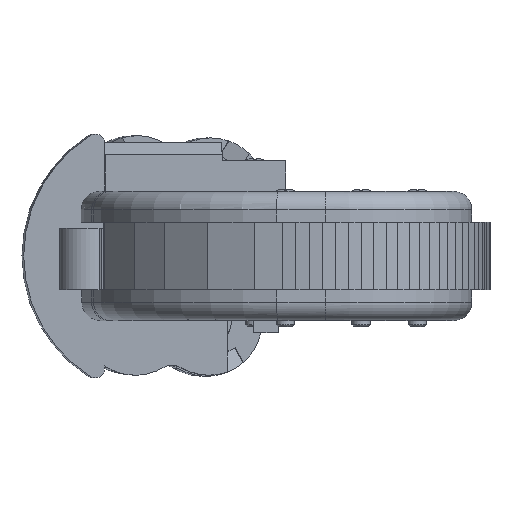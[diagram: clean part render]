
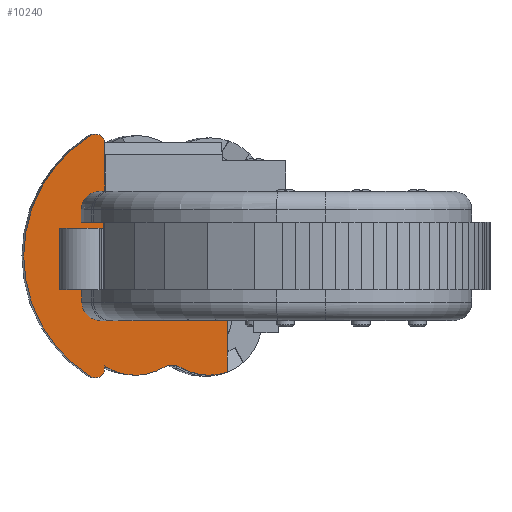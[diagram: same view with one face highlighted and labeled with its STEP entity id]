
A CAD part, left-side view. The second image highlights one B-rep face of the part: STEP entity #10240.
In plain terms, the highlighted planar face has unit normal (-1, -0.014, 0) as drawn and (0, 0, -1) by its records, which use the part's own axes.
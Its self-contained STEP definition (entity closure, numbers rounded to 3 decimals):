
#9514=CARTESIAN_POINT('',(-5.5,-31.024,0.0));
#9515=VERTEX_POINT('',#9514);
#9522=CARTESIAN_POINT('',(5.5,-31.024,0.0));
#9523=VERTEX_POINT('',#9522);
#9524=CARTESIAN_POINT('',(0.,-23.9,0.0));
#9525=DIRECTION('',(0.0,0.0,1.0));
#9526=DIRECTION('',(-0.611,-0.792,0.0));
#9527=AXIS2_PLACEMENT_3D('',#9524,#9525,#9526);
#9528=CIRCLE('',#9527,9.);
#9529=EDGE_CURVE('',#9515,#9523,#9528,.T.);
#9554=CARTESIAN_POINT('',(1.5,4.426,0.0));
#9555=VERTEX_POINT('',#9554);
#9556=CARTESIAN_POINT('',(-1.5,4.426,0.0));
#9557=VERTEX_POINT('',#9556);
#9558=CARTESIAN_POINT('',(1.5,4.426,0.0));
#9559=DIRECTION('',(-1.0,0.0,0.0));
#9560=VECTOR('',#9559,3.0);
#9561=LINE('',#9558,#9560);
#9562=EDGE_CURVE('',#9555,#9557,#9561,.T.);
#9594=CARTESIAN_POINT('',(1.5,-4.532,0.0));
#9595=VERTEX_POINT('',#9594);
#9596=CARTESIAN_POINT('',(1.5,-4.532,0.0));
#9597=DIRECTION('',(0.0,1.0,0.0));
#9598=VECTOR('',#9597,8.958);
#9599=LINE('',#9596,#9598);
#9600=EDGE_CURVE('',#9595,#9555,#9599,.T.);
#9625=CARTESIAN_POINT('',(-1.5,-4.532,0.0));
#9626=VERTEX_POINT('',#9625);
#9627=CARTESIAN_POINT('',(-1.5,-4.532,0.0));
#9628=DIRECTION('',(1.0,0.0,0.0));
#9629=VECTOR('',#9628,3.);
#9630=LINE('',#9627,#9629);
#9631=EDGE_CURVE('',#9626,#9595,#9630,.T.);
#9656=CARTESIAN_POINT('',(-1.5,4.426,0.0));
#9657=DIRECTION('',(0.0,-1.0,0.0));
#9658=VECTOR('',#9657,8.958);
#9659=LINE('',#9656,#9658);
#9660=EDGE_CURVE('',#9557,#9626,#9659,.T.);
#9689=CARTESIAN_POINT('',(2.0,-11.997,0.0));
#9690=VERTEX_POINT('',#9689);
#9691=CARTESIAN_POINT('',(0.0,-11.997,0.0));
#9692=DIRECTION('',(0.0,0.0,1.0));
#9693=DIRECTION('',(-1.0,0.0,0.0));
#9694=AXIS2_PLACEMENT_3D('',#9691,#9692,#9693);
#9695=CIRCLE('',#9694,2.0);
#9696=EDGE_CURVE('',#9690,#9690,#9695,.T.);
#9706=CARTESIAN_POINT('',(5.5,-20.9,0.0));
#9707=VERTEX_POINT('',#9706);
#9708=CARTESIAN_POINT('',(18.878,-20.9,0.0));
#9709=VERTEX_POINT('',#9708);
#9710=CARTESIAN_POINT('',(5.5,-20.9,0.0));
#9711=DIRECTION('',(1.0,0.0,0.0));
#9712=VECTOR('',#9711,13.378);
#9713=LINE('',#9710,#9712);
#9714=EDGE_CURVE('',#9707,#9709,#9713,.T.);
#9746=CARTESIAN_POINT('',(5.5,-31.024,0.0));
#9747=DIRECTION('',(0.0,1.0,0.0));
#9748=VECTOR('',#9747,10.124);
#9749=LINE('',#9746,#9748);
#9750=EDGE_CURVE('',#9523,#9707,#9749,.T.);
#9771=CARTESIAN_POINT('',(-5.5,-20.9,0.0));
#9772=VERTEX_POINT('',#9771);
#9773=CARTESIAN_POINT('',(-5.5,-20.9,0.0));
#9774=DIRECTION('',(0.0,-1.0,0.0));
#9775=VECTOR('',#9774,10.124);
#9776=LINE('',#9773,#9775);
#9777=EDGE_CURVE('',#9772,#9515,#9776,.T.);
#9805=CARTESIAN_POINT('',(-10.5,-20.9,0.0));
#9806=VERTEX_POINT('',#9805);
#9807=CARTESIAN_POINT('',(-10.5,-20.9,0.0));
#9808=DIRECTION('',(1.0,0.0,0.0));
#9809=VECTOR('',#9808,5.);
#9810=LINE('',#9807,#9809);
#9811=EDGE_CURVE('',#9806,#9772,#9810,.T.);
#9836=CARTESIAN_POINT('',(-10.5,-10.9,0.0));
#9837=VERTEX_POINT('',#9836);
#9838=CARTESIAN_POINT('',(-10.5,-10.9,0.0));
#9839=DIRECTION('',(0.0,-1.0,0.0));
#9840=VECTOR('',#9839,10.);
#9841=LINE('',#9838,#9840);
#9842=EDGE_CURVE('',#9837,#9806,#9841,.T.);
#9867=CARTESIAN_POINT('',(-10.392,-10.9,0.0));
#9868=VERTEX_POINT('',#9867);
#9869=CARTESIAN_POINT('',(-10.392,-10.9,0.0));
#9870=DIRECTION('',(-1.0,0.0,0.0));
#9871=VECTOR('',#9870,0.108);
#9872=LINE('',#9869,#9871);
#9873=EDGE_CURVE('',#9868,#9837,#9872,.T.);
#9898=CARTESIAN_POINT('',(-10.392,-0.9,0.0));
#9899=VERTEX_POINT('',#9898);
#9900=CARTESIAN_POINT('',(-10.392,-5.9,0.0));
#9901=DIRECTION('',(0.0,0.0,-1.0));
#9902=DIRECTION('',(0.0,1.0,0.0));
#9903=AXIS2_PLACEMENT_3D('',#9900,#9901,#9902);
#9904=CIRCLE('',#9903,5.);
#9905=EDGE_CURVE('',#9899,#9868,#9904,.T.);
#9931=CARTESIAN_POINT('',(-18.34,-0.9,0.0));
#9932=VERTEX_POINT('',#9931);
#9933=CARTESIAN_POINT('',(-18.34,-0.9,0.0));
#9934=DIRECTION('',(1.0,0.0,0.0));
#9935=VECTOR('',#9934,7.948);
#9936=LINE('',#9933,#9935);
#9937=EDGE_CURVE('',#9932,#9899,#9936,.T.);
#9962=CARTESIAN_POINT('',(-19.611,1.397,0.0));
#9963=VERTEX_POINT('',#9962);
#9964=CARTESIAN_POINT('',(-18.34,0.6,0.0));
#9965=DIRECTION('',(0.0,0.0,1.0));
#9966=DIRECTION('',(-0.847,0.531,0.0));
#9967=AXIS2_PLACEMENT_3D('',#9964,#9965,#9966);
#9968=CIRCLE('',#9967,1.5);
#9969=EDGE_CURVE('',#9963,#9932,#9968,.T.);
#9995=CARTESIAN_POINT('',(19.611,1.397,0.0));
#9996=VERTEX_POINT('',#9995);
#9997=CARTESIAN_POINT('',(0.,-10.9,0.0));
#9998=DIRECTION('',(0.0,0.0,1.0));
#9999=DIRECTION('',(0.847,0.531,0.0));
#10000=AXIS2_PLACEMENT_3D('',#9997,#9998,#9999);
#10001=CIRCLE('',#10000,23.147);
#10002=EDGE_CURVE('',#9996,#9963,#10001,.T.);
#10020=CARTESIAN_POINT('',(18.34,-0.9,0.0));
#10021=VERTEX_POINT('',#10020);
#10022=CARTESIAN_POINT('',(18.34,0.6,0.0));
#10023=DIRECTION('',(0.0,0.0,1.0));
#10024=DIRECTION('',(0.0,-1.0,0.0));
#10025=AXIS2_PLACEMENT_3D('',#10022,#10023,#10024);
#10026=CIRCLE('',#10025,1.5);
#10027=EDGE_CURVE('',#10021,#9996,#10026,.T.);
#10055=CARTESIAN_POINT('',(17.876,-0.9,0.0));
#10056=VERTEX_POINT('',#10055);
#10057=CARTESIAN_POINT('',(17.876,-0.9,0.0));
#10058=DIRECTION('',(1.0,0.0,0.0));
#10059=VECTOR('',#10058,0.464);
#10060=LINE('',#10057,#10059);
#10061=EDGE_CURVE('',#10056,#10021,#10060,.T.);
#10086=CARTESIAN_POINT('',(18.187,-10.4,0.0));
#10087=VERTEX_POINT('',#10086);
#10088=CARTESIAN_POINT('',(10.392,-5.9,0.0));
#10089=DIRECTION('',(0.0,0.0,1.0));
#10090=DIRECTION('',(0.866,-0.5,0.0));
#10091=AXIS2_PLACEMENT_3D('',#10088,#10089,#10090);
#10092=CIRCLE('',#10091,9.0);
#10093=EDGE_CURVE('',#10087,#10056,#10092,.T.);
#10119=CARTESIAN_POINT('',(18.187,-13.4,0.0));
#10120=VERTEX_POINT('',#10119);
#10121=CARTESIAN_POINT('',(20.785,-11.9,0.0));
#10122=DIRECTION('',(0.0,0.0,-1.0));
#10123=DIRECTION('',(0.866,-0.5,0.0));
#10124=AXIS2_PLACEMENT_3D('',#10121,#10122,#10123);
#10125=CIRCLE('',#10124,3.);
#10126=EDGE_CURVE('',#10120,#10087,#10125,.T.);
#10152=CARTESIAN_POINT('',(10.392,-17.9,0.0));
#10153=DIRECTION('',(0.0,0.0,1.0));
#10154=DIRECTION('',(0.943,-0.333,0.0));
#10155=AXIS2_PLACEMENT_3D('',#10152,#10153,#10154);
#10156=CIRCLE('',#10155,9.0);
#10157=EDGE_CURVE('',#9709,#10120,#10156,.T.);
#10208=CARTESIAN_POINT('',(0.913,-9.783,0.0));
#10209=DIRECTION('',(0.0,0.0,1.0));
#10210=DIRECTION('',(1.0,0.0,0.0));
#10211=AXIS2_PLACEMENT_3D('',#10208,#10209,#10210);
#10212=PLANE('',#10211);
#10213=ORIENTED_EDGE('',*,*,#10157,.F.);
#10214=ORIENTED_EDGE('',*,*,#9714,.F.);
#10215=ORIENTED_EDGE('',*,*,#9750,.F.);
#10216=ORIENTED_EDGE('',*,*,#9529,.F.);
#10217=ORIENTED_EDGE('',*,*,#9777,.F.);
#10218=ORIENTED_EDGE('',*,*,#9811,.F.);
#10219=ORIENTED_EDGE('',*,*,#9842,.F.);
#10220=ORIENTED_EDGE('',*,*,#9873,.F.);
#10221=ORIENTED_EDGE('',*,*,#9905,.F.);
#10222=ORIENTED_EDGE('',*,*,#9937,.F.);
#10223=ORIENTED_EDGE('',*,*,#9969,.F.);
#10224=ORIENTED_EDGE('',*,*,#10002,.F.);
#10225=ORIENTED_EDGE('',*,*,#10027,.F.);
#10226=ORIENTED_EDGE('',*,*,#10061,.F.);
#10227=ORIENTED_EDGE('',*,*,#10093,.F.);
#10228=ORIENTED_EDGE('',*,*,#10126,.F.);
#10229=EDGE_LOOP('',(#10213,#10214,#10215,#10216,#10217,#10218,#10219,#10220,#10221,#10222,#10223,#10224,#10225,#10226,#10227,#10228));
#10230=FACE_OUTER_BOUND('',#10229,.T.);
#10231=ORIENTED_EDGE('',*,*,#9562,.T.);
#10232=ORIENTED_EDGE('',*,*,#9660,.T.);
#10233=ORIENTED_EDGE('',*,*,#9631,.T.);
#10234=ORIENTED_EDGE('',*,*,#9600,.T.);
#10235=EDGE_LOOP('',(#10231,#10232,#10233,#10234));
#10236=FACE_BOUND('',#10235,.T.);
#10237=ORIENTED_EDGE('',*,*,#9696,.T.);
#10238=EDGE_LOOP('',(#10237));
#10239=FACE_BOUND('',#10238,.T.);
#10240=ADVANCED_FACE('',(#10230,#10236,#10239),#10212,.F.);
